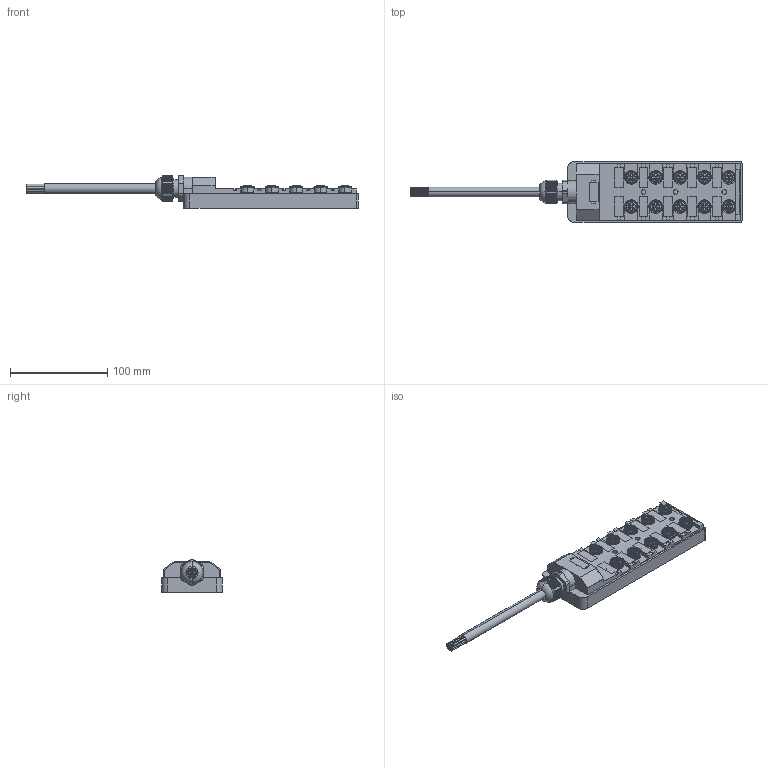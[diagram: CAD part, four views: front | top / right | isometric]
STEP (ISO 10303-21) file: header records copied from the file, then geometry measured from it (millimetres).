
FILE_DESCRIPTION (( 'STEP AP214' ), '1' );
FILE_NAME ('JDC-040-013-CZZ.STEP', '2012-08-02T19:43:21', ( 'Mencom User' ), ( 'Hewlett-Packard Company' ), 'SwSTEP 2.0', 'SolidWorks 2012', '' );
FILE_SCHEMA (( 'AUTOMOTIVE_DESIGN' ));
Length unit declared in the file: inch
Products named in the file (1): JDC-040-013-CZZ
Bounding box: 341.77 x 62.48 x 33.31 mm (x, y, z)
Volume: 218586.7 mm3; surface area: 86600.6 mm2
Topology: 39 solids, 46 shells, 2115 faces, 5915 edges, 3900 vertices
Faces by surface type: plane 1213, cylinder 557, bspline 257, torus 62, cone 26
Entity records: 122229 total; most frequent: CARTESIAN_POINT 43320, ORIENTED_EDGE 11830, DIRECTION 9714, EDGE_CURVE 5915, VERTEX_POINT 3900, LINE 3512, VECTOR 3512, AXIS2_PLACEMENT_3D 3101
